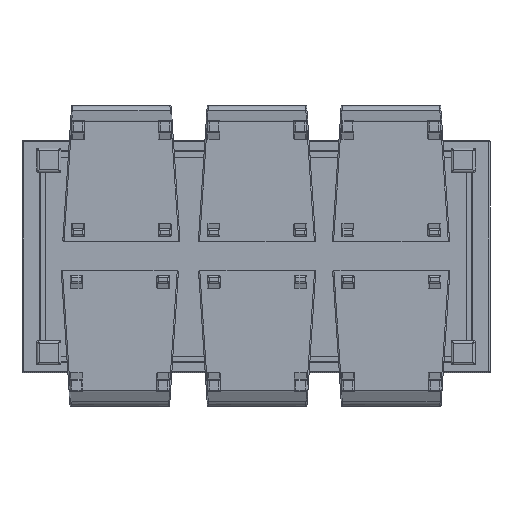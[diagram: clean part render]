
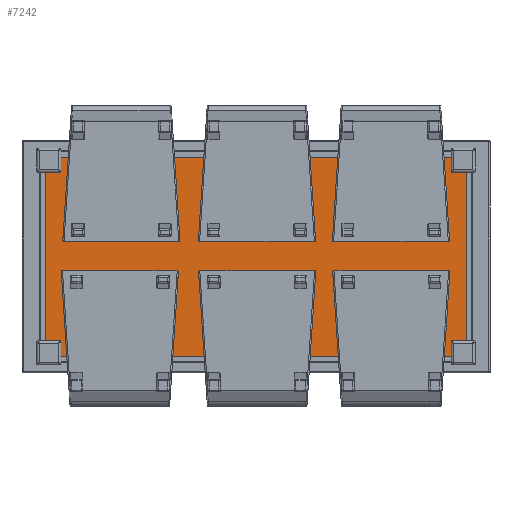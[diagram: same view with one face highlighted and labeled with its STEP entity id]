
A CAD part, front view. The second image highlights one B-rep face of the part: STEP entity #7242.
In plain terms, the highlighted planar face has unit normal (0, -1, 0).
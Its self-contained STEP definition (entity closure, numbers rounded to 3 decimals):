
#42 = VERTEX_POINT ( 'NONE', #7259 ) ;
#62 = EDGE_CURVE ( 'NONE', #2698, #5817, #9122, .T. ) ;
#128 = EDGE_CURVE ( 'NONE', #5779, #8408, #7167, .T. ) ;
#306 = VERTEX_POINT ( 'NONE', #1176 ) ;
#336 = EDGE_CURVE ( 'NONE', #7495, #4024, #6493, .T. ) ;
#416 = LINE ( 'NONE', #5520, #4565 ) ;
#446 = ORIENTED_EDGE ( 'NONE', *, *, #4928, .F. ) ;
#480 = CARTESIAN_POINT ( 'NONE',  ( -765., 0., -425. ) ) ;
#496 = LINE ( 'NONE', #2848, #4640 ) ;
#515 = VECTOR ( 'NONE', #626, 1000. ) ;
#527 = DIRECTION ( 'NONE',  ( 0., 1., 0. ) ) ;
#626 = DIRECTION ( 'NONE',  ( 0., 0., 1. ) ) ;
#793 = ORIENTED_EDGE ( 'NONE', *, *, #128, .F. ) ;
#864 = VECTOR ( 'NONE', #2648, 1000. ) ;
#1046 = CIRCLE ( 'NONE', #6592, 5. ) ;
#1171 = VECTOR ( 'NONE', #7427, 1000. ) ;
#1176 = CARTESIAN_POINT ( 'NONE',  ( 770., 0., -330. ) ) ;
#1240 = CARTESIAN_POINT ( 'NONE',  ( 770., 0., 335. ) ) ;
#1554 = CARTESIAN_POINT ( 'NONE',  ( 770., 0., 330. ) ) ;
#1725 = LINE ( 'NONE', #7796, #7939 ) ;
#1744 = CARTESIAN_POINT ( 'NONE',  ( -765., 0., 390. ) ) ;
#1972 = CARTESIAN_POINT ( 'NONE',  ( -825., 0., -330. ) ) ;
#2038 = DIRECTION ( 'NONE',  ( 0., 0., -1. ) ) ;
#2144 = ORIENTED_EDGE ( 'NONE', *, *, #62, .F. ) ;
#2166 = CARTESIAN_POINT ( 'NONE',  ( 825., 0., 330. ) ) ;
#2291 = CARTESIAN_POINT ( 'NONE',  ( -825., 0., 330. ) ) ;
#2372 = CARTESIAN_POINT ( 'NONE',  ( 765., 0., 390. ) ) ;
#2571 = VECTOR ( 'NONE', #2765, 1000. ) ;
#2586 = LINE ( 'NONE', #4511, #515 ) ;
#2648 = DIRECTION ( 'NONE',  ( -1., 0., 0. ) ) ;
#2652 = CARTESIAN_POINT ( 'NONE',  ( -825., 0., -330. ) ) ;
#2685 = DIRECTION ( 'NONE',  ( 0., 0., -1. ) ) ;
#2698 = VERTEX_POINT ( 'NONE', #3706 ) ;
#2711 = CARTESIAN_POINT ( 'NONE',  ( 765., 0., -390. ) ) ;
#2765 = DIRECTION ( 'NONE',  ( 0., 0., -1. ) ) ;
#2848 = CARTESIAN_POINT ( 'NONE',  ( 765., 0., 330. ) ) ;
#2911 = CARTESIAN_POINT ( 'NONE',  ( 765., 0., -390. ) ) ;
#2964 = FACE_OUTER_BOUND ( 'NONE', #3773, .T. ) ;
#3029 = ORIENTED_EDGE ( 'NONE', *, *, #3803, .F. ) ;
#3085 = CARTESIAN_POINT ( 'NONE',  ( -770., 0., -335. ) ) ;
#3318 = EDGE_CURVE ( 'NONE', #5237, #3810, #7689, .T. ) ;
#3516 = CARTESIAN_POINT ( 'NONE',  ( -770., 0., 330. ) ) ;
#3530 = ORIENTED_EDGE ( 'NONE', *, *, #336, .T. ) ;
#3706 = CARTESIAN_POINT ( 'NONE',  ( -770., 0., -330. ) ) ;
#3773 = EDGE_LOOP ( 'NONE', ( #6244, #8552, #7519, #5955, #8484, #3029, #3530, #4002, #9898, #2144, #8577, #793, #5194, #7484, #7967, #446 ) ) ;
#3803 = EDGE_CURVE ( 'NONE', #7495, #6585, #2586, .T. ) ;
#3810 = VERTEX_POINT ( 'NONE', #2911 ) ;
#3832 = CARTESIAN_POINT ( 'NONE',  ( -765., 0., 335. ) ) ;
#3849 = CARTESIAN_POINT ( 'NONE',  ( 770., 0., -335. ) ) ;
#3876 = DIRECTION ( 'NONE',  ( 0., 0., -1. ) ) ;
#3906 = VECTOR ( 'NONE', #5773, 1000. ) ;
#3951 = VERTEX_POINT ( 'NONE', #1554 ) ;
#3952 = VECTOR ( 'NONE', #4957, 1000. ) ;
#4002 = ORIENTED_EDGE ( 'NONE', *, *, #6960, .F. ) ;
#4024 = VERTEX_POINT ( 'NONE', #3516 ) ;
#4046 = EDGE_CURVE ( 'NONE', #7492, #5817, #8513, .T. ) ;
#4052 = CARTESIAN_POINT ( 'NONE',  ( 765., 0., -425. ) ) ;
#4059 = EDGE_CURVE ( 'NONE', #3951, #6165, #7545, .T. ) ;
#4176 = CARTESIAN_POINT ( 'NONE',  ( 825., 0., -330. ) ) ;
#4511 = CARTESIAN_POINT ( 'NONE',  ( -765., 0., 330. ) ) ;
#4565 = VECTOR ( 'NONE', #6276, 1000. ) ;
#4625 = DIRECTION ( 'NONE',  ( 0., 0., -1. ) ) ;
#4640 = VECTOR ( 'NONE', #8272, 1000. ) ;
#4724 = DIRECTION ( 'NONE',  ( 1., 0., 0. ) ) ;
#4827 = DIRECTION ( 'NONE',  ( 0., 0., -1. ) ) ;
#4928 = EDGE_CURVE ( 'NONE', #7163, #306, #5347, .T. ) ;
#4940 = CARTESIAN_POINT ( 'NONE',  ( 0., 0., 0. ) ) ;
#4957 = DIRECTION ( 'NONE',  ( 0., 0., 1. ) ) ;
#5154 = EDGE_CURVE ( 'NONE', #2698, #8408, #1046, .T. ) ;
#5192 = CARTESIAN_POINT ( 'NONE',  ( -770., 0., 335. ) ) ;
#5194 = ORIENTED_EDGE ( 'NONE', *, *, #7806, .T. ) ;
#5237 = VERTEX_POINT ( 'NONE', #6234 ) ;
#5304 = DIRECTION ( 'NONE',  ( 0., 0., 1. ) ) ;
#5347 = LINE ( 'NONE', #9722, #1171 ) ;
#5519 = AXIS2_PLACEMENT_3D ( 'NONE', #5192, #527, #5970 ) ;
#5520 = CARTESIAN_POINT ( 'NONE',  ( 765., 0., 330. ) ) ;
#5639 = VECTOR ( 'NONE', #4827, 1000. ) ;
#5773 = DIRECTION ( 'NONE',  ( 1., 0., 0. ) ) ;
#5779 = VERTEX_POINT ( 'NONE', #7732 ) ;
#5817 = VERTEX_POINT ( 'NONE', #2652 ) ;
#5955 = ORIENTED_EDGE ( 'NONE', *, *, #9643, .F. ) ;
#5970 = DIRECTION ( 'NONE',  ( 0., 0., -1. ) ) ;
#6165 = VERTEX_POINT ( 'NONE', #6397 ) ;
#6176 = AXIS2_PLACEMENT_3D ( 'NONE', #1240, #6700, #2038 ) ;
#6197 = LINE ( 'NONE', #2711, #3906 ) ;
#6206 = AXIS2_PLACEMENT_3D ( 'NONE', #4940, #7320, #2685 ) ;
#6210 = DIRECTION ( 'NONE',  ( -1., 0., 0. ) ) ;
#6234 = CARTESIAN_POINT ( 'NONE',  ( 765., 0., -335. ) ) ;
#6244 = ORIENTED_EDGE ( 'NONE', *, *, #9900, .T. ) ;
#6276 = DIRECTION ( 'NONE',  ( 1., 0., 0. ) ) ;
#6379 = CARTESIAN_POINT ( 'NONE',  ( -860., 0., -330. ) ) ;
#6397 = CARTESIAN_POINT ( 'NONE',  ( 765., 0., 335. ) ) ;
#6457 = VERTEX_POINT ( 'NONE', #2372 ) ;
#6469 = EDGE_CURVE ( 'NONE', #3951, #42, #416, .T. ) ;
#6493 = CIRCLE ( 'NONE', #5519, 5. ) ;
#6500 = AXIS2_PLACEMENT_3D ( 'NONE', #3849, #9256, #4625 ) ;
#6547 = PLANE ( 'NONE',  #6206 ) ;
#6585 = VERTEX_POINT ( 'NONE', #1744 ) ;
#6592 = AXIS2_PLACEMENT_3D ( 'NONE', #3085, #8501, #3876 ) ;
#6661 = CARTESIAN_POINT ( 'NONE',  ( -765., 0., -335. ) ) ;
#6700 = DIRECTION ( 'NONE',  ( 0., 1., 0. ) ) ;
#6960 = EDGE_CURVE ( 'NONE', #7492, #4024, #1725, .T. ) ;
#7163 = VERTEX_POINT ( 'NONE', #4176 ) ;
#7167 = LINE ( 'NONE', #480, #3952 ) ;
#7226 = EDGE_CURVE ( 'NONE', #6457, #6585, #9135, .T. ) ;
#7242 = ADVANCED_FACE ( 'NONE', ( #2964 ), #6547, .T. ) ;
#7259 = CARTESIAN_POINT ( 'NONE',  ( 825., 0., 330. ) ) ;
#7320 = DIRECTION ( 'NONE',  ( 0., -1., 0. ) ) ;
#7427 = DIRECTION ( 'NONE',  ( -1., 0., 0. ) ) ;
#7484 = ORIENTED_EDGE ( 'NONE', *, *, #3318, .F. ) ;
#7492 = VERTEX_POINT ( 'NONE', #2291 ) ;
#7495 = VERTEX_POINT ( 'NONE', #3832 ) ;
#7519 = ORIENTED_EDGE ( 'NONE', *, *, #4059, .T. ) ;
#7545 = CIRCLE ( 'NONE', #6176, 5. ) ;
#7655 = VECTOR ( 'NONE', #5304, 1000. ) ;
#7689 = LINE ( 'NONE', #4052, #5639 ) ;
#7732 = CARTESIAN_POINT ( 'NONE',  ( -765., 0., -390. ) ) ;
#7796 = CARTESIAN_POINT ( 'NONE',  ( -860., 0., 330. ) ) ;
#7806 = EDGE_CURVE ( 'NONE', #5779, #3810, #6197, .T. ) ;
#7900 = LINE ( 'NONE', #2166, #7655 ) ;
#7939 = VECTOR ( 'NONE', #4724, 1000. ) ;
#7967 = ORIENTED_EDGE ( 'NONE', *, *, #9416, .T. ) ;
#8272 = DIRECTION ( 'NONE',  ( 0., 0., -1. ) ) ;
#8408 = VERTEX_POINT ( 'NONE', #6661 ) ;
#8484 = ORIENTED_EDGE ( 'NONE', *, *, #7226, .T. ) ;
#8501 = DIRECTION ( 'NONE',  ( 0., 1., 0. ) ) ;
#8513 = LINE ( 'NONE', #1972, #2571 ) ;
#8552 = ORIENTED_EDGE ( 'NONE', *, *, #6469, .F. ) ;
#8577 = ORIENTED_EDGE ( 'NONE', *, *, #5154, .T. ) ;
#8650 = VECTOR ( 'NONE', #6210, 1000. ) ;
#9122 = LINE ( 'NONE', #6379, #8650 ) ;
#9135 = LINE ( 'NONE', #9625, #864 ) ;
#9256 = DIRECTION ( 'NONE',  ( 0., 1., 0. ) ) ;
#9416 = EDGE_CURVE ( 'NONE', #5237, #306, #9605, .T. ) ;
#9605 = CIRCLE ( 'NONE', #6500, 5. ) ;
#9625 = CARTESIAN_POINT ( 'NONE',  ( -765., 0., 390. ) ) ;
#9643 = EDGE_CURVE ( 'NONE', #6457, #6165, #496, .T. ) ;
#9722 = CARTESIAN_POINT ( 'NONE',  ( 765., 0., -330. ) ) ;
#9898 = ORIENTED_EDGE ( 'NONE', *, *, #4046, .T. ) ;
#9900 = EDGE_CURVE ( 'NONE', #7163, #42, #7900, .T. ) ;
